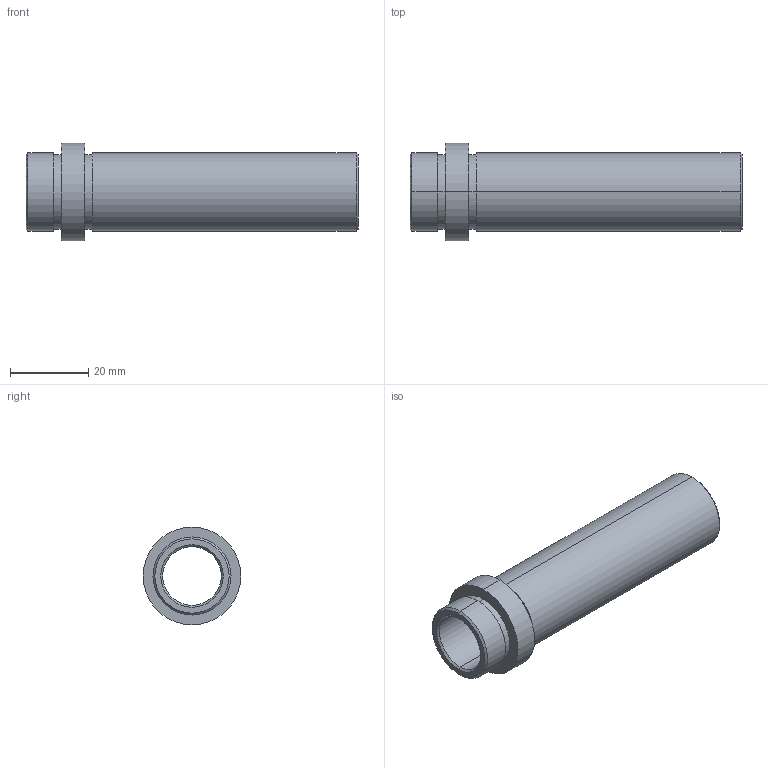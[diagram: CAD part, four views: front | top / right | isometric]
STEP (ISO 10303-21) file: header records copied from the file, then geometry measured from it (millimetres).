
FILE_DESCRIPTION( ( 'STEP AP203' ), '1' );
FILE_NAME( 'C:/Projects/D21 - 15x76.step', '2002-12-31T22:30:16', ( ' ' ), ( ' ' ), 'XStep 1.0', ' ', ' ' );
FILE_SCHEMA( ( 'CONFIG_CONTROL_DESIGN' ) );
Length unit declared in the file: metre
Products named in the file (1): 1
Bounding box: 85 x 25 x 25 mm (x, y, z)
Volume: 12593.1 mm3; surface area: 10114.3 mm2
Topology: 1 solids, 1 shells, 26 faces, 52 edges, 32 vertices
Faces by surface type: revolution 20, bspline 6
Entity records: 773 total; most frequent: CARTESIAN_POINT 169, DIRECTION 106, ORIENTED_EDGE 104, EDGE_CURVE 52, AXIS2_PLACEMENT_3D 33, EDGE_LOOP 32, VERTEX_POINT 32, CIRCLE 32
